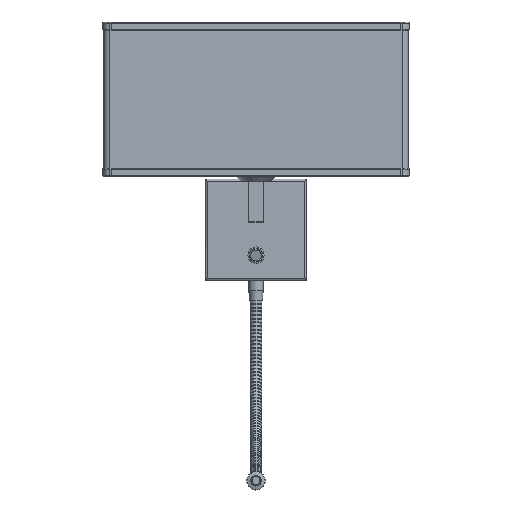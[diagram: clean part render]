
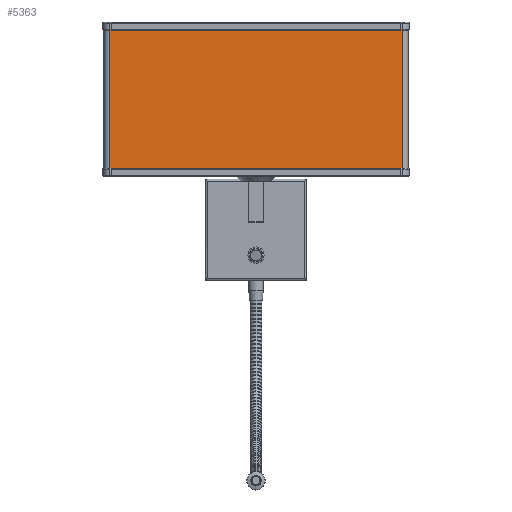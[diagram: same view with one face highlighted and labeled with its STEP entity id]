
A CAD part, top view. The second image highlights one B-rep face of the part: STEP entity #5363.
In plain terms, the highlighted planar face has unit normal (0, 0, 1).
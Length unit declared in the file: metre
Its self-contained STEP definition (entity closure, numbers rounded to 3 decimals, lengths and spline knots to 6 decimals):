
#5363 = ADVANCED_FACE( '', ( #6451 ), #6452, .T. );
#6451 = FACE_OUTER_BOUND( '', #8245, .T. );
#6452 = PLANE( '', #8246 );
#8245 = EDGE_LOOP( '', ( #10776, #10777, #10778, #10779 ) );
#8246 = AXIS2_PLACEMENT_3D( '', #10780, #10781, #10782 );
#10776 = ORIENTED_EDGE( '', *, *, #13904, .F. );
#10777 = ORIENTED_EDGE( '', *, *, #13883, .F. );
#10778 = ORIENTED_EDGE( '', *, *, #13900, .T. );
#10779 = ORIENTED_EDGE( '', *, *, #13866, .T. );
#10780 = CARTESIAN_POINT( '', ( 65.859083, 6.843916, 0.10594 ) );
#10781 = DIRECTION( '', ( 0., 0., 1. ) );
#10782 = DIRECTION( '', ( 0., -1., 0. ) );
#13866 = EDGE_CURVE( '', #15121, #15118, #15122, .T. );
#13883 = EDGE_CURVE( '', #15152, #15153, #15154, .T. );
#13900 = EDGE_CURVE( '', #15152, #15121, #15177, .T. );
#13904 = EDGE_CURVE( '', #15153, #15118, #15181, .T. );
#15118 = VERTEX_POINT( '', #16983 );
#15121 = VERTEX_POINT( '', #16986 );
#15122 = LINE( '', #16987, #16988 );
#15152 = VERTEX_POINT( '', #17027 );
#15153 = VERTEX_POINT( '', #17028 );
#15154 = LINE( '', #17029, #17030 );
#15177 = LINE( '', #17065, #17066 );
#15181 = LINE( '', #17073, #17074 );
#16983 = CARTESIAN_POINT( '', ( 66.147083, 6.693916, 0.10594 ) );
#16986 = CARTESIAN_POINT( '', ( 65.859083, 6.693916, 0.10594 ) );
#16987 = CARTESIAN_POINT( '', ( 65.859083, 6.693916, 0.10594 ) );
#16988 = VECTOR( '', #19367, 1. );
#17027 = CARTESIAN_POINT( '', ( 65.859083, 6.843916, 0.10594 ) );
#17028 = CARTESIAN_POINT( '', ( 66.147083, 6.843916, 0.10594 ) );
#17029 = CARTESIAN_POINT( '', ( 65.859083, 6.843916, 0.10594 ) );
#17030 = VECTOR( '', #19398, 1. );
#17065 = CARTESIAN_POINT( '', ( 65.859083, 6.843916, 0.10594 ) );
#17066 = VECTOR( '', #19423, 1. );
#17073 = CARTESIAN_POINT( '', ( 66.147083, 6.843916, 0.10594 ) );
#17074 = VECTOR( '', #19427, 1. );
#19367 = DIRECTION( '', ( 1., 0., 0. ) );
#19398 = DIRECTION( '', ( 1., 0., 0. ) );
#19423 = DIRECTION( '', ( 0., -1., 0. ) );
#19427 = DIRECTION( '', ( 0., -1., 0. ) );
